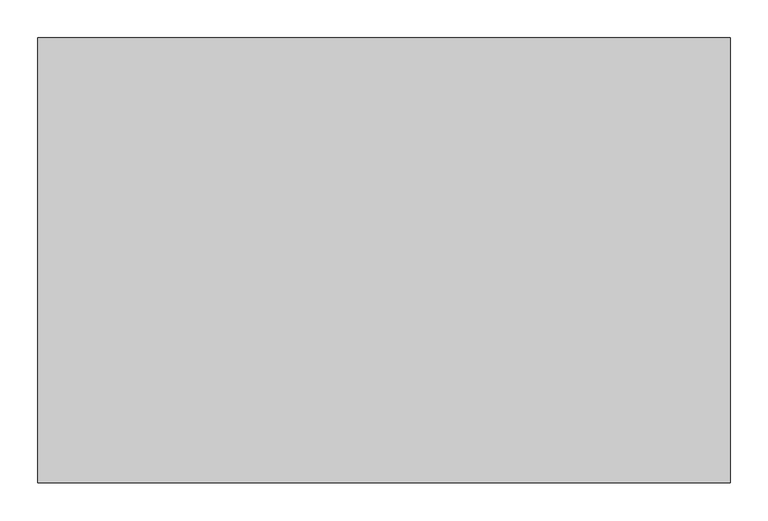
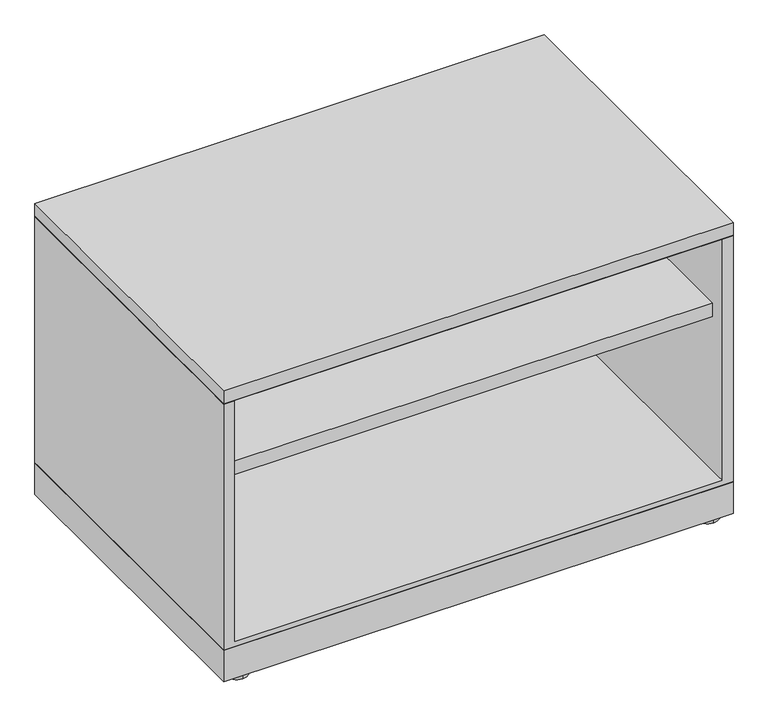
"""IFC4 building model written with IfcOpenShell, lengths in millimetres: furniture geometry, Steelcase - Universal Storage - Lateral File - 1.5 High - Flush Steel : Open/Open - 23 1/8D x 36W."""

from ifc_helpers import new_model, si_unit, point, frame, frame_2d, origin, origin_with_axes, place, context, project, spatial, polyline, circle_curve, trimmed, segment, composite_curve, outline, extrude, faceted_brep, source, transform, mapped, element, save


def furniture_ef610b43(model_context):
    return source(origin(), model_context, "Body", "SolidModel", [
        extrude(outline(polyline([(914.4, 587.502), (914.4, 0.0), (0.0, 0.0), (0.0, 587.502), (914.4, 587.502)])), frame((0.0, 0.0, 6.3500002), z_axis=(0.0, 0.0, 1.0), x_axis=(1.0, 0.0, 0.0)), (0.0, 0.0, 1.0), 59.6899998),
        extrude(outline(composite_curve([segment(trimmed(circle_curve(frame_2d((879.7290058, 565.1653666)), 20.32), [point((879.7290058, 544.8453666))], [point((879.7290058, 585.4853666))], False, "CARTESIAN"), True, "CONTINUOUS"), segment(trimmed(circle_curve(frame_2d((879.7290058, 565.1653666)), 20.32), [point((879.7290058, 585.4853666))], [point((879.7290058, 544.8453666))], False, "CARTESIAN"), True, "CONTINUOUS")], self_intersect=False)), origin_with_axes(), (0.0, 0.0, 1.0), 6.3500002),
        extrude(outline(composite_curve([segment(trimmed(circle_curve(frame_2d((879.7290058, 20.7491455)), 20.32), [point((879.7290058, 0.4291455))], [point((879.7290058, 41.0691455))], False, "CARTESIAN"), True, "CONTINUOUS"), segment(trimmed(circle_curve(frame_2d((879.7290058, 20.7491455)), 20.32), [point((879.7290058, 41.0691455))], [point((879.7290058, 0.4291455))], False, "CARTESIAN"), True, "CONTINUOUS")], self_intersect=False)), origin_with_axes(), (0.0, 0.0, 1.0), 6.3500002),
        extrude(outline(composite_curve([segment(trimmed(circle_curve(frame_2d((34.29, 565.1653666)), 20.32), [point((34.29, 585.4853666))], [point((34.29, 544.8453666))], False, "CARTESIAN"), True, "CONTINUOUS"), segment(trimmed(circle_curve(frame_2d((34.29, 565.1653666)), 20.32), [point((34.29, 544.8453666))], [point((34.29, 585.4853666))], False, "CARTESIAN"), True, "CONTINUOUS")], self_intersect=False)), origin_with_axes(), (0.0, 0.0, 1.0), 6.3500002),
        extrude(outline(composite_curve([segment(trimmed(circle_curve(frame_2d((34.29, 20.7491455)), 20.32), [point((34.29, 41.0691455))], [point((34.29, 0.4291455))], False, "CARTESIAN"), True, "CONTINUOUS"), segment(trimmed(circle_curve(frame_2d((34.29, 20.7491455)), 20.32), [point((34.29, 0.4291455))], [point((34.29, 41.0691455))], False, "CARTESIAN"), True, "CONTINUOUS")], self_intersect=False)), origin_with_axes(), (0.0, 0.0, 1.0), 6.3500002),
        extrude(outline(polyline([(568.0964128, 396.7988176), (568.0964128, 410.7687861), (571.271412, 410.7687861), (571.271412, 371.5257963), (26.822418, 371.5257963), (26.822418, 396.7988176), (568.0964128, 396.7988176)])), frame((22.0472, 0.0, 0.0), z_axis=(1.0, 0.0, 0.0), x_axis=(0.0, 1.0, 0.0)), (0.0, 0.0, 1.0), 870.3056),
        extrude(outline(polyline([(1.45e-05, 534.0350121), (587.502, 534.0350121), (586.7399879, 533.273), (0.7620266, 533.273), (1.45e-05, 534.0350121)])), frame((0.0, 0.0, 0.0), z_axis=(1.0, 0.0, 0.0), x_axis=(0.0, 1.0, 0.0)), (0.0, 0.0, 1.0), 914.4),
        extrude(outline(polyline([(914.4, 587.502), (914.4, 0.0), (0.0, 0.0), (0.0, 587.502), (914.4, 587.502)])), frame((0.0, 0.0, 534.0350121), z_axis=(0.0, 0.0, 1.0), x_axis=(1.0, 0.0, 0.0)), (0.0, 0.0, 1.0), 24.6379729),
        faceted_brep([(914.4, 0.0, 66.04), (914.4, 587.502, 66.04), (914.4, 587.502, 533.273), (914.4, 0.0, 533.273), (0.0, 0.0, 533.273), (0.0, 587.502, 533.273), (0.0, 587.502, 66.04), (0.0, 0.0, 66.04), (895.35, 0.0, 533.273), (895.35, 0.0, 75.1586), (19.05, 0.0, 75.1586), (19.05, 0.0, 533.273), (19.05, 584.3269999, 533.273), (895.35, 584.3269999, 533.273), (19.05, 584.3269999, 75.1586), (895.35, 584.3269999, 75.1586)], [[[0, 1, 2, 3]], [[4, 5, 6, 7]], [[0, 3, 8, 9, 10, 11, 4, 7]], [[2, 1, 6, 5]], [[3, 2, 5, 4, 11, 12, 13, 8]], [[12, 14, 15, 13]], [[14, 12, 11, 10]], [[13, 15, 9, 8]], [[1, 0, 7, 6]], [[10, 9, 15, 14]]]),
    ])


if __name__ == "__main__":
    model = new_model("IFC4")
    model_context = context("Model", 3, world=origin())
    ifc_project = project(units=[si_unit("LENGTHUNIT", "METRE", prefix="MILLI")], contexts=[model_context])
    site = spatial("IfcSite", under=ifc_project)
    building = spatial("IfcBuilding", under=site)
    placement = place(None, origin())
    furniture_shape = furniture_ef610b43(model_context)
    element("IfcFurniture", 1, ObjectType="Steelcase - Universal Storage - Lateral File - 1.5 High - Flush Steel : Open/Open - 23 1/8D x 36W", at=placement, inside=building, context=model_context, shape_type="MappedRepresentation", body=[
        mapped(furniture_shape, transform((0.0, 0.0, 0.0), x_axis=(1.0, 0.0, 0.0), y_axis=(0.0, 1.0, 0.0), z_axis=(0.0, 0.0, 1.0))),
    ])
    save(model, "model.ifc")
